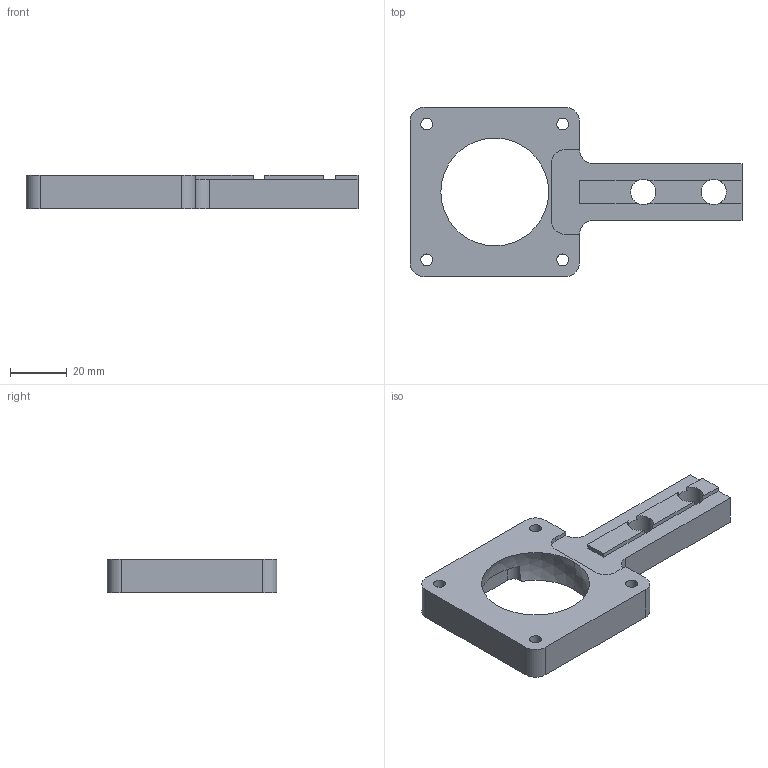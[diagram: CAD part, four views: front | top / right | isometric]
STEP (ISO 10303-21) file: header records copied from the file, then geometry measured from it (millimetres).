
FILE_DESCRIPTION (( 'STEP AP203' ), '1' );
FILE_NAME ('084.800.001.STEP', '2013-01-29T09:11:22', ( 'Alusic' ), ( 'Alusic' ), 'SwSTEP 2.0', 'SolidWorks 2011', '' );
FILE_SCHEMA (( 'CONFIG_CONTROL_DESIGN' ));
Length unit declared in the file: millimetre
Products named in the file (1): 084.800.001
Bounding box: 117.5 x 60 x 12 mm (x, y, z)
Volume: 37462.4 mm3; surface area: 13893.3 mm2
Topology: 1 solids, 1 shells, 64 faces, 188 edges, 124 vertices
Faces by surface type: plane 34, cylinder 28, sphere 2
Entity records: 2239 total; most frequent: DIRECTION 388, CARTESIAN_POINT 383, ORIENTED_EDGE 368, EDGE_CURVE 184, AXIS2_PLACEMENT_3D 143, VERTEX_POINT 122, LINE 102, VECTOR 102
